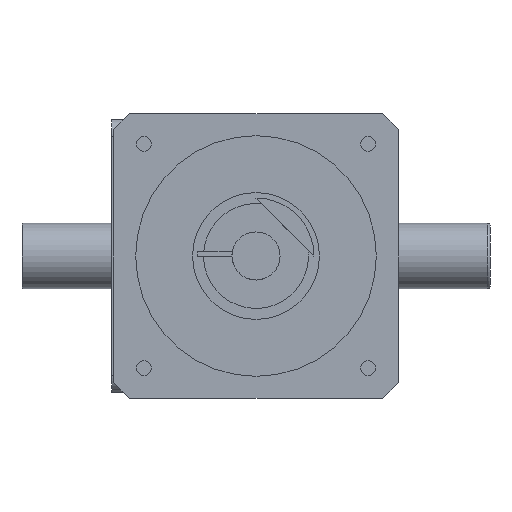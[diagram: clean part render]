
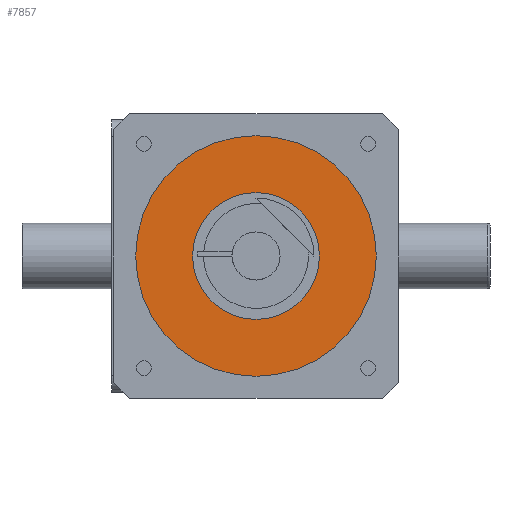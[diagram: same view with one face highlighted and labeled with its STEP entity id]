
A CAD part, front view. The second image highlights one B-rep face of the part: STEP entity #7857.
In plain terms, the highlighted planar face has unit normal (0, -1, 0) as drawn and (0, 0, -1) by its records, which use the part's own axes.
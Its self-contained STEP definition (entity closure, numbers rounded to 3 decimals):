
#1176 = AXIS2_PLACEMENT_3D ( 'NONE', #12987, #10742, #2609 ) ;
#2550 = DIRECTION ( 'NONE',  ( -1., 0., 0. ) ) ;
#2609 = DIRECTION ( 'NONE',  ( -1., 0., 0. ) ) ;
#3032 = ORIENTED_EDGE ( 'NONE', *, *, #14309, .T. ) ;
#3152 = DIRECTION ( 'NONE',  ( -1., 0., 0. ) ) ;
#3297 = VERTEX_POINT ( 'NONE', #11875 ) ;
#3307 = CARTESIAN_POINT ( 'NONE',  ( 0., 0., -100. ) ) ;
#3349 = VERTEX_POINT ( 'NONE', #12528 ) ;
#3970 = CARTESIAN_POINT ( 'NONE',  ( 0., 0., -100. ) ) ;
#4480 = ORIENTED_EDGE ( 'NONE', *, *, #8958, .F. ) ;
#4826 = AXIS2_PLACEMENT_3D ( 'NONE', #3970, #12018, #4969 ) ;
#4969 = DIRECTION ( 'NONE',  ( -1., 0., 0. ) ) ;
#5347 = VERTEX_POINT ( 'NONE', #6823 ) ;
#5397 = AXIS2_PLACEMENT_3D ( 'NONE', #5475, #11289, #6872 ) ;
#5475 = CARTESIAN_POINT ( 'NONE',  ( 0., 0., -100. ) ) ;
#5952 = CARTESIAN_POINT ( 'NONE',  ( 0., 0., -100. ) ) ;
#6184 = ORIENTED_EDGE ( 'NONE', *, *, #12188, .T. ) ;
#6727 = DIRECTION ( 'NONE',  ( 0., 0., -1. ) ) ;
#6823 = CARTESIAN_POINT ( 'NONE',  ( 55., 0., -100. ) ) ;
#6872 = DIRECTION ( 'NONE',  ( -1., 0., 0. ) ) ;
#7567 = CARTESIAN_POINT ( 'NONE',  ( -29., 0., -100. ) ) ;
#7857 = ADVANCED_FACE ( 'NONE', ( #13922, #9034 ), #13770, .T. ) ;
#8354 = AXIS2_PLACEMENT_3D ( 'NONE', #5952, #10603, #2550 ) ;
#8958 = EDGE_CURVE ( 'NONE', #14466, #3349, #15026, .T. ) ;
#9034 = FACE_OUTER_BOUND ( 'NONE', #14978, .T. ) ;
#9259 = EDGE_CURVE ( 'NONE', #3349, #14466, #13808, .T. ) ;
#10082 = CIRCLE ( 'NONE', #1176, 55. ) ;
#10515 = CIRCLE ( 'NONE', #4826, 55. ) ;
#10603 = DIRECTION ( 'NONE',  ( 0., 0., -1. ) ) ;
#10742 = DIRECTION ( 'NONE',  ( 0., 0., -1. ) ) ;
#11289 = DIRECTION ( 'NONE',  ( 0., 0., -1. ) ) ;
#11875 = CARTESIAN_POINT ( 'NONE',  ( -55., 0., -100. ) ) ;
#12018 = DIRECTION ( 'NONE',  ( 0., 0., -1. ) ) ;
#12188 = EDGE_CURVE ( 'NONE', #3297, #5347, #10515, .T. ) ;
#12409 = ORIENTED_EDGE ( 'NONE', *, *, #9259, .F. ) ;
#12528 = CARTESIAN_POINT ( 'NONE',  ( 29., 0., -100. ) ) ;
#12987 = CARTESIAN_POINT ( 'NONE',  ( 0., 0., -100. ) ) ;
#13770 = PLANE ( 'NONE',  #14362 ) ;
#13808 = CIRCLE ( 'NONE', #5397, 29. ) ;
#13922 = FACE_BOUND ( 'NONE', #14128, .T. ) ;
#14128 = EDGE_LOOP ( 'NONE', ( #4480, #12409 ) ) ;
#14309 = EDGE_CURVE ( 'NONE', #5347, #3297, #10082, .T. ) ;
#14362 = AXIS2_PLACEMENT_3D ( 'NONE', #3307, #6727, #3152 ) ;
#14466 = VERTEX_POINT ( 'NONE', #7567 ) ;
#14978 = EDGE_LOOP ( 'NONE', ( #6184, #3032 ) ) ;
#15026 = CIRCLE ( 'NONE', #8354, 29. ) ;
